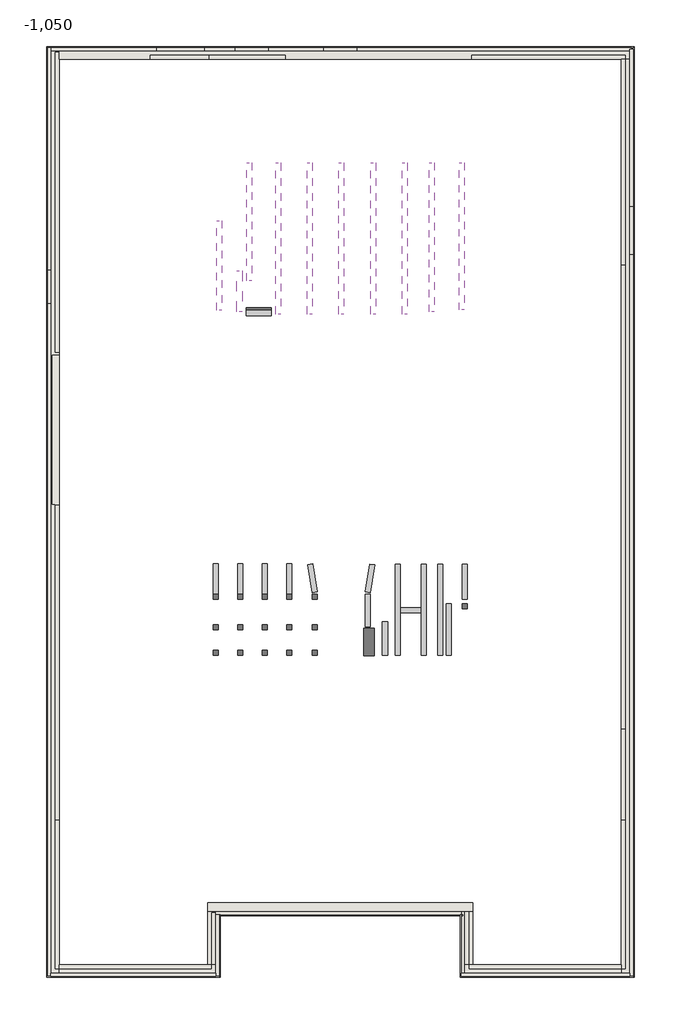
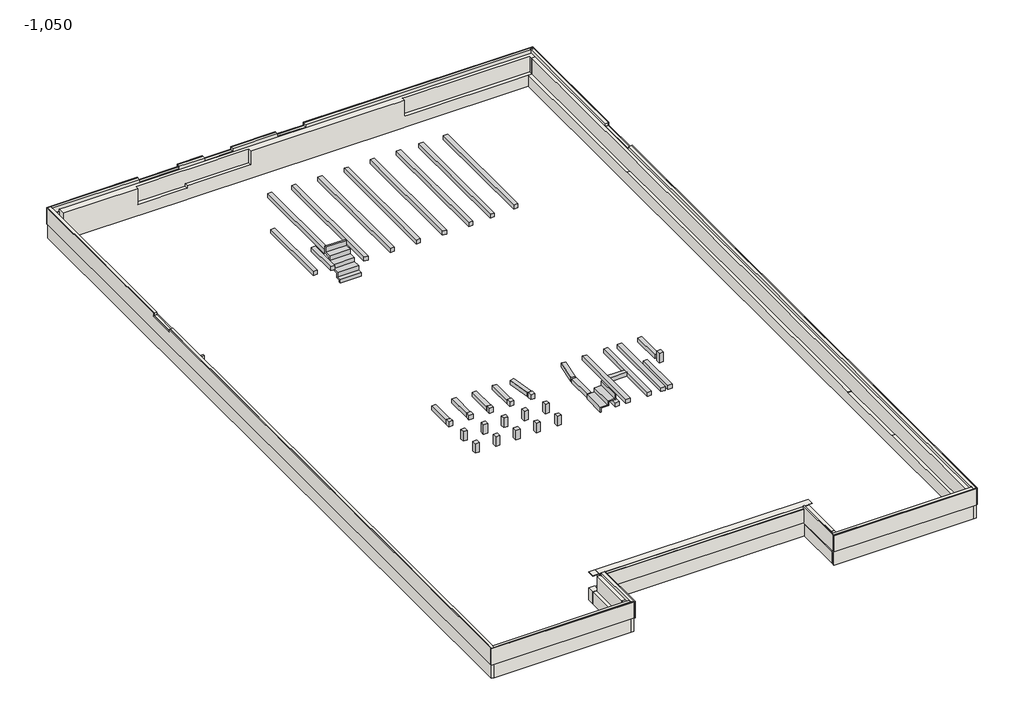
# One storey: 42 proxies, 24 walls.
"""IFC4 building model written with IfcOpenShell, lengths in millimetres."""

from ifc_helpers import new_model, si_unit, origin, place, context, project, spatial, faceted_brep, transform, mapped, element, save
from components import generic_models_91f2eda5, generic_models_311d7380, generic_models_d7380c55, generic_models_fb02990d, generic_models_5c8551f2, generic_models_0a0f0701, generic_models_8112f402, generic_models_638b450d, generic_models_1dc8325f, generic_models_6abca7a8, generic_models_34106eca, generic_models_d80d0d0e, generic_models_195040dd, generic_models_a04b8802, generic_models_7fd432a6, generic_models_03230570, generic_models_1b29908c, generic_models_3de3591b, generic_models_bb56d079

model = new_model("IFC4")

# Units and contexts
model_context = context("Model", 3, world=origin())
ifc_project = project(units=[si_unit("LENGTHUNIT", "METRE", prefix="MILLI")], contexts=[model_context])

# Site, building, storey
site = spatial("IfcSite", under=ifc_project)
building = spatial("IfcBuilding", under=site)
storey = spatial("IfcBuildingStorey", under=building, Name="-1,050", Elevation=-1050.0)

# Proxies
placement = place(None, origin())
generic_models_shape = generic_models_91f2eda5(model_context)
element("IfcBuildingElementProxy", 1, Name="Брус : 150х150", ObjectType="Брус : 150х150", at=placement, inside=storey, context=model_context, shape_type="MappedRepresentation", body=[
    mapped(generic_models_shape, transform((5619.9987483, 23875.0, 490.0), x_axis=(1.0, 0.0, 0.0), y_axis=(0.0, 0.0, 1.0), z_axis=(0.0, -1.0, 0.0))),
])
generic_models_2_shape = generic_models_311d7380(model_context)
element("IfcBuildingElementProxy", 2, Name="Брус : 150х150", ObjectType="Брус : 150х150", at=placement, inside=storey, context=model_context, shape_type="MappedRepresentation", body=[
    mapped(generic_models_2_shape, transform((5330.0, 20665.47696, 490.0), x_axis=(1.0, 0.0, 0.0), y_axis=(0.0, 0.0, 1.0), z_axis=(0.0, -1.0, 0.0))),
])
generic_models_3_shape = generic_models_d7380c55(model_context)
element("IfcBuildingElementProxy", 3, Name="Брус : 150х150", ObjectType="Брус : 150х150", at=placement, inside=storey, context=model_context, shape_type="MappedRepresentation", body=[
    mapped(generic_models_3_shape, transform((4725.0, 22150.0, 490.0), x_axis=(1.0, 0.0, 0.0), y_axis=(0.0, 0.0, 1.0), z_axis=(0.0, -1.0, 0.0))),
])
generic_models_4_shape = generic_models_fb02990d(model_context)
element("IfcBuildingElementProxy", 4, Name="Брус : 150х150", ObjectType="Брус : 150х150", at=placement, inside=storey, context=model_context, shape_type="MappedRepresentation", body=[
    mapped(generic_models_4_shape, transform((6480.0, 19385.0, 490.0), x_axis=(1.0, 0.0, 0.0), y_axis=(0.0, 0.0, -1.0), z_axis=(0.0, 1.0, 0.0))),
])
element("IfcBuildingElementProxy", 5, Name="Брус : 150х150", ObjectType="Брус : 150х150", at=placement, inside=storey, context=model_context, shape_type="MappedRepresentation", body=[
    mapped(generic_models_4_shape, transform((7420.0, 19385.0, 490.0), x_axis=(1.0, 0.0, 0.0), y_axis=(0.0, 0.0, -1.0), z_axis=(0.0, 1.0, 0.0))),
])
element("IfcBuildingElementProxy", 6, Name="Брус : 150х150", ObjectType="Брус : 150х150", at=placement, inside=storey, context=model_context, shape_type="MappedRepresentation", body=[
    mapped(generic_models_4_shape, transform((8360.0, 19385.0, 490.0), x_axis=(1.0, 0.0, 0.0), y_axis=(0.0, 0.0, -1.0), z_axis=(0.0, 1.0, 0.0))),
])
element("IfcBuildingElementProxy", 7, Name="Брус : 150х150", ObjectType="Брус : 150х150", at=placement, inside=storey, context=model_context, shape_type="MappedRepresentation", body=[
    mapped(generic_models_4_shape, transform((9300.0, 19385.0, 490.0), x_axis=(1.0, 0.0, 0.0), y_axis=(0.0, 0.0, -1.0), z_axis=(0.0, 1.0, 0.0))),
])
element("IfcBuildingElementProxy", 8, Name="Брус : 150х150", ObjectType="Брус : 150х150", at=placement, inside=storey, context=model_context, shape_type="MappedRepresentation", body=[
    mapped(generic_models_4_shape, transform((10240.0, 19385.0, 490.0), x_axis=(1.0, 0.0, 0.0), y_axis=(0.0, 0.0, -1.0), z_axis=(0.0, 1.0, 0.0))),
])
generic_models_5_shape = generic_models_5c8551f2(model_context)
element("IfcBuildingElementProxy", 9, Name="Брус : 150х150", ObjectType="Брус : 150х150", at=placement, inside=storey, context=model_context, shape_type="MappedRepresentation", body=[
    mapped(generic_models_5_shape, transform((11050.0, 23875.0, 490.0), x_axis=(1.0, 0.0, 0.0), y_axis=(0.0, 0.0, 1.0), z_axis=(0.0, -1.0, 0.0))),
])
generic_models_6_shape = generic_models_0a0f0701(model_context)
element("IfcBuildingElementProxy", 10, Name="Брус : 150х150", ObjectType="Брус : 150х150", at=placement, inside=storey, context=model_context, shape_type="MappedRepresentation", body=[
    mapped(generic_models_6_shape, transform((11930.0, 23875.0, 490.0), x_axis=(1.0, 0.0, 0.0), y_axis=(0.0, 0.0, 1.0), z_axis=(0.0, -1.0, 0.0))),
])
generic_models_7_shape = generic_models_8112f402(model_context)
element("IfcBuildingElementProxy", 11, Name="Л1 : Л-2", ObjectType="Л1 : Л-2", at=placement, inside=storey, context=model_context, shape_type="MappedRepresentation", body=[
    mapped(generic_models_7_shape, transform((0.0, 0.0, 0.0), x_axis=(1.0, 0.0, 0.0), y_axis=(0.0, 1.0, 0.0), z_axis=(0.0, 0.0, 1.0))),
])
generic_models_8_shape = generic_models_638b450d(model_context)
element("IfcBuildingElementProxy", 12, Name="Брус : 150х150", ObjectType="Брус : 150х150", at=placement, inside=storey, context=model_context, shape_type="MappedRepresentation", body=[
    mapped(generic_models_8_shape, transform((5505.0, 11049.9999997, -5.0), x_axis=(-1.0, 0.0, 0.0), y_axis=(0.0, 0.0, 1.0), z_axis=(0.0, 1.0, 0.0))),
])
element("IfcBuildingElementProxy", 13, Name="Брус : 150х150", ObjectType="Брус : 150х150", at=placement, inside=storey, context=model_context, shape_type="MappedRepresentation", body=[
    mapped(generic_models_8_shape, transform((4775.0, 11049.9999997, -5.0), x_axis=(-1.0, 0.0, 0.0), y_axis=(0.0, 0.0, 1.0), z_axis=(0.0, 1.0, 0.0))),
])
element("IfcBuildingElementProxy", 14, Name="Брус : 150х150", ObjectType="Брус : 150х150", at=placement, inside=storey, context=model_context, shape_type="MappedRepresentation", body=[
    mapped(generic_models_8_shape, transform((6235.0, 11049.9999997, -5.0), x_axis=(-1.0, 0.0, 0.0), y_axis=(0.0, 0.0, 1.0), z_axis=(0.0, 1.0, 0.0))),
])
element("IfcBuildingElementProxy", 15, Name="Брус : 150х150", ObjectType="Брус : 150х150", at=placement, inside=storey, context=model_context, shape_type="MappedRepresentation", body=[
    mapped(generic_models_8_shape, transform((6965.0, 11049.9999997, -5.0), x_axis=(-1.0, 0.0, 0.0), y_axis=(0.0, 0.0, 1.0), z_axis=(0.0, 1.0, 0.0))),
])
generic_models_9_shape = generic_models_1dc8325f(model_context)
element("IfcBuildingElementProxy", 16, Name="Брус : 150х150", ObjectType="Брус : 150х150", at=placement, inside=storey, context=model_context, shape_type="MappedRepresentation", body=[
    mapped(generic_models_9_shape, transform((9290.0, 10094.9999997, -5.0), x_axis=(-1.0, 0.0, 0.0), y_axis=(0.0, 0.0, 1.0), z_axis=(0.0, 1.0, 0.0))),
])
generic_models_10_shape = generic_models_6abca7a8(model_context)
element("IfcBuildingElementProxy", 17, Name="Брус : 150х150", ObjectType="Брус : 150х150", at=placement, inside=storey, context=model_context, shape_type="MappedRepresentation", body=[
    mapped(generic_models_10_shape, transform((9805.0, 9244.9999997, -5.0), x_axis=(-1.0, 0.0, 0.0), y_axis=(0.0, 0.0, 1.0), z_axis=(0.0, 1.0, 0.0))),
])
generic_models_11_shape = generic_models_34106eca(model_context)
element("IfcBuildingElementProxy", 18, Name="Брус : 150х150", ObjectType="Брус : 150х150", at=placement, inside=storey, context=model_context, shape_type="MappedRepresentation", body=[
    mapped(generic_models_11_shape, transform((11695.0, 9244.9999997, -5.0), x_axis=(-1.0, 0.0, 0.0), y_axis=(0.0, 0.0, 1.0), z_axis=(0.0, 1.0, 0.0))),
])
generic_models_12_shape = generic_models_d80d0d0e(model_context)
element("IfcBuildingElementProxy", 19, Name="Брус : 150х150", ObjectType="Брус : 150х150", at=placement, inside=storey, context=model_context, shape_type="MappedRepresentation", body=[
    mapped(generic_models_12_shape, transform((10805.0, 10655.0, -5.0), x_axis=(0.0, -1.0, 0.0), y_axis=(0.0, 0.0, 1.0), z_axis=(-1.0, 0.0, 0.0))),
])
generic_models_13_shape = generic_models_195040dd(model_context)
element("IfcBuildingElementProxy", 20, Name="Брус : 150х150", ObjectType="Брус : 150х150", at=placement, inside=storey, context=model_context, shape_type="MappedRepresentation", body=[
    mapped(generic_models_13_shape, transform((10185.0, 9244.9999997, -5.0), x_axis=(-1.0, 0.0, 0.0), y_axis=(0.0, 0.0, 1.0), z_axis=(0.0, 1.0, 0.0))),
])
element("IfcBuildingElementProxy", 21, Name="Брус : 150х150", ObjectType="Брус : 150х150", at=placement, inside=storey, context=model_context, shape_type="MappedRepresentation", body=[
    mapped(generic_models_13_shape, transform((10955.0, 9244.9999997, -5.0), x_axis=(-1.0, 0.0, 0.0), y_axis=(0.0, 0.0, 1.0), z_axis=(0.0, 1.0, 0.0))),
])
element("IfcBuildingElementProxy", 22, Name="Брус : 150х150", ObjectType="Брус : 150х150", at=placement, inside=storey, context=model_context, shape_type="MappedRepresentation", body=[
    mapped(generic_models_13_shape, transform((11445.0, 9244.9999997, -5.0), x_axis=(-1.0, 0.0, 0.0), y_axis=(0.0, 0.0, 1.0), z_axis=(0.0, 1.0, 0.0))),
])
generic_models_14_shape = generic_models_a04b8802(model_context)
element("IfcBuildingElementProxy", 23, Name="Брус : 150х150", ObjectType="Брус : 150х150", at=placement, inside=storey, context=model_context, shape_type="MappedRepresentation", body=[
    mapped(generic_models_14_shape, transform((12175.0, 10899.9999997, -5.0), x_axis=(-1.0, 0.0, 0.0), y_axis=(0.0, 0.0, 1.0), z_axis=(0.0, 1.0, 0.0))),
])
generic_models_15_shape = generic_models_7fd432a6(model_context)
element("IfcBuildingElementProxy", 24, Name="Брус 9 : Брус 2", ObjectType="Брус 9 : Брус 2", at=placement, inside=storey, context=model_context, shape_type="MappedRepresentation", body=[
    mapped(generic_models_15_shape, transform((0.0, 0.0, 0.0), x_axis=(1.0, 0.0, 0.0), y_axis=(0.0, 1.0, 0.0), z_axis=(0.0, 0.0, 1.0))),
])
generic_models_16_shape = generic_models_03230570(model_context)
element("IfcBuildingElementProxy", 25, Name="Л-3 : Л-3", ObjectType="Л-3 : Л-3", at=placement, inside=storey, context=model_context, shape_type="MappedRepresentation", body=[
    mapped(generic_models_16_shape, transform((0.0, 0.0, 0.0), x_axis=(1.0, 0.0, 0.0), y_axis=(0.0, 1.0, 0.0), z_axis=(0.0, 0.0, 1.0))),
])
generic_models_17_shape = generic_models_1b29908c(model_context)
element("IfcBuildingElementProxy", 26, Name="Брус : 150х150", ObjectType="Брус : 150х150", at=placement, inside=storey, context=model_context, shape_type="MappedRepresentation", body=[
    mapped(generic_models_17_shape, transform((12025.0, 10624.7875056, -5.0), x_axis=(1.0, 0.0, 0.0), y_axis=(0.0, 1.0, 0.0), z_axis=(0.0, 0.0, 1.0))),
])
element("IfcBuildingElementProxy", 27, Name="Брус : 150х150", ObjectType="Брус : 150х150", at=placement, inside=storey, context=model_context, shape_type="MappedRepresentation", body=[
    mapped(generic_models_17_shape, transform((5355.0, 9999.9999997, -5.0), x_axis=(1.0, 0.0, 0.0), y_axis=(0.0, 1.0, 0.0), z_axis=(0.0, 0.0, 1.0))),
])
element("IfcBuildingElementProxy", 28, Name="Брус : 150х150", ObjectType="Брус : 150х150", at=placement, inside=storey, context=model_context, shape_type="MappedRepresentation", body=[
    mapped(generic_models_17_shape, transform((4625.0, 9999.9999997, -5.0), x_axis=(1.0, 0.0, 0.0), y_axis=(0.0, 1.0, 0.0), z_axis=(0.0, 0.0, 1.0))),
])
element("IfcBuildingElementProxy", 29, Name="Брус : 150х150", ObjectType="Брус : 150х150", at=placement, inside=storey, context=model_context, shape_type="MappedRepresentation", body=[
    mapped(generic_models_17_shape, transform((4625.0, 9244.9999997, -5.0), x_axis=(1.0, 0.0, 0.0), y_axis=(0.0, 1.0, 0.0), z_axis=(0.0, 0.0, 1.0))),
])
element("IfcBuildingElementProxy", 30, Name="Брус : 150х150", ObjectType="Брус : 150х150", at=placement, inside=storey, context=model_context, shape_type="MappedRepresentation", body=[
    mapped(generic_models_17_shape, transform((5355.0, 9244.9999997, -5.0), x_axis=(1.0, 0.0, 0.0), y_axis=(0.0, 1.0, 0.0), z_axis=(0.0, 0.0, 1.0))),
])
element("IfcBuildingElementProxy", 31, Name="Брус : 150х150", ObjectType="Брус : 150х150", at=placement, inside=storey, context=model_context, shape_type="MappedRepresentation", body=[
    mapped(generic_models_17_shape, transform((6085.0, 9244.9999997, -5.0), x_axis=(1.0, 0.0, 0.0), y_axis=(0.0, 1.0, 0.0), z_axis=(0.0, 0.0, 1.0))),
])
element("IfcBuildingElementProxy", 32, Name="Брус : 150х150", ObjectType="Брус : 150х150", at=placement, inside=storey, context=model_context, shape_type="MappedRepresentation", body=[
    mapped(generic_models_17_shape, transform((6815.0, 9244.9999997, -5.0), x_axis=(1.0, 0.0, 0.0), y_axis=(0.0, 1.0, 0.0), z_axis=(0.0, 0.0, 1.0))),
])
element("IfcBuildingElementProxy", 33, Name="Брус : 150х150", ObjectType="Брус : 150х150", at=placement, inside=storey, context=model_context, shape_type="MappedRepresentation", body=[
    mapped(generic_models_17_shape, transform((7570.0, 9244.9999997, -5.0), x_axis=(1.0, 0.0, 0.0), y_axis=(0.0, 1.0, 0.0), z_axis=(0.0, 0.0, 1.0))),
])
element("IfcBuildingElementProxy", 34, Name="Брус : 150х150", ObjectType="Брус : 150х150", at=placement, inside=storey, context=model_context, shape_type="MappedRepresentation", body=[
    mapped(generic_models_17_shape, transform((7570.0, 9999.9999997, -5.0), x_axis=(1.0, 0.0, 0.0), y_axis=(0.0, 1.0, 0.0), z_axis=(0.0, 0.0, 1.0))),
])
element("IfcBuildingElementProxy", 35, Name="Брус : 150х150", ObjectType="Брус : 150х150", at=placement, inside=storey, context=model_context, shape_type="MappedRepresentation", body=[
    mapped(generic_models_17_shape, transform((6815.0, 9999.9999997, -5.0), x_axis=(1.0, 0.0, 0.0), y_axis=(0.0, 1.0, 0.0), z_axis=(0.0, 0.0, 1.0))),
])
element("IfcBuildingElementProxy", 36, Name="Брус : 150х150", ObjectType="Брус : 150х150", at=placement, inside=storey, context=model_context, shape_type="MappedRepresentation", body=[
    mapped(generic_models_17_shape, transform((6085.0, 9999.9999997, -5.0), x_axis=(1.0, 0.0, 0.0), y_axis=(0.0, 1.0, 0.0), z_axis=(0.0, 0.0, 1.0))),
])
generic_models_18_shape = generic_models_3de3591b(model_context)
element("IfcBuildingElementProxy", 37, Name="Брус 10 : Брус 2", ObjectType="Брус 10 : Брус 2", at=placement, inside=storey, context=model_context, shape_type="MappedRepresentation", body=[
    mapped(generic_models_18_shape, transform((0.0, 0.0, 0.0), x_axis=(1.0, 0.0, 0.0), y_axis=(0.0, 1.0, 0.0), z_axis=(0.0, 0.0, 1.0))),
])
generic_models_19_shape = generic_models_bb56d079(model_context)
element("IfcBuildingElementProxy", 38, Name="Брус : 150х150", ObjectType="Брус : 150х150", at=placement, inside=storey, context=model_context, shape_type="MappedRepresentation", body=[
    mapped(generic_models_19_shape, transform((4625.0, 10899.9999997, -5.0), x_axis=(1.0, 0.0, 0.0), y_axis=(0.0, 1.0, 0.0), z_axis=(0.0, 0.0, 1.0))),
])
element("IfcBuildingElementProxy", 39, Name="Брус : 150х150", ObjectType="Брус : 150х150", at=placement, inside=storey, context=model_context, shape_type="MappedRepresentation", body=[
    mapped(generic_models_19_shape, transform((5355.0, 10899.9999997, -5.0), x_axis=(1.0, 0.0, 0.0), y_axis=(0.0, 1.0, 0.0), z_axis=(0.0, 0.0, 1.0))),
])
element("IfcBuildingElementProxy", 40, Name="Брус : 150х150", ObjectType="Брус : 150х150", at=placement, inside=storey, context=model_context, shape_type="MappedRepresentation", body=[
    mapped(generic_models_19_shape, transform((6085.0, 10899.9999997, -5.0), x_axis=(1.0, 0.0, 0.0), y_axis=(0.0, 1.0, 0.0), z_axis=(0.0, 0.0, 1.0))),
])
element("IfcBuildingElementProxy", 41, Name="Брус : 150х150", ObjectType="Брус : 150х150", at=placement, inside=storey, context=model_context, shape_type="MappedRepresentation", body=[
    mapped(generic_models_19_shape, transform((6815.0, 10899.9999997, -5.0), x_axis=(1.0, 0.0, 0.0), y_axis=(0.0, 1.0, 0.0), z_axis=(0.0, 0.0, 1.0))),
])
element("IfcBuildingElementProxy", 42, Name="Брус : 150х150", ObjectType="Брус : 150х150", at=placement, inside=storey, context=model_context, shape_type="MappedRepresentation", body=[
    mapped(generic_models_19_shape, transform((7570.0, 10899.9999997, -5.0), x_axis=(1.0, 0.0, 0.0), y_axis=(0.0, 1.0, 0.0), z_axis=(0.0, 0.0, 1.0))),
])

# Walls
element("IfcWall", 43, ObjectType="ADSK_Внутренняя_Кирпич_250", at=placement, inside=storey, context=model_context, shape_type="Brep", body=[
    faceted_brep([(4455.0, 1635.3517467, -1050.0), (4705.0, 1635.3517467, -1050.0), (11995.0, 1635.3517467, -1050.0), (12095.0, 1635.3517467, -1050.0), (12345.0, 1635.3517467, -1050.0), (12345.0, 1635.3517467, -610.0), (12215.0, 1635.3517467, -610.0), (12215.0, 1635.3517467, -20.0), (12215.0, 1635.3517467, -3.0), (12345.0, 1635.3517467, -3.0), (12345.0, 1635.3517467, 0.0), (4455.0, 1635.3517467, 0.0), (4455.0, 1635.3517467, -3.0), (4687.5, 1635.3517467, -3.0), (4687.5, 1635.3517467, -20.0), (4687.5, 1635.3517467, -610.0), (4455.0, 1635.3517467, -610.0), (12345.0, 1885.3517467, -1050.0), (4455.0, 1885.3517467, -1050.0), (4455.0, 1885.3517467, -610.0), (4675.0, 1885.3517467, -610.0), (4675.0, 1885.3517467, -627.0), (12112.5, 1885.3517467, -627.0), (12112.5, 1885.3517467, -610.0), (12345.0, 1885.3517467, -610.0), (4455.0, 1885.3517467, 0.0), (12345.0, 1885.3517467, 0.0), (12345.0, 1885.3517467, -3.0), (12112.5, 1885.3517467, -3.0), (12112.5, 1885.3517467, -20.0), (4687.5, 1885.3517467, -20.0), (4687.5, 1885.3517467, -3.0), (4455.0, 1885.3517467, -3.0), (4675.0, 1755.3517467, -627.0), (12112.5, 1755.3517467, -627.0), (12112.5, 1755.3517467, -20.0), (4687.5, 1755.3517467, -20.0), (4675.0, 1755.3517467, -610.0), (4687.5, 1755.3517467, -610.0), (12112.5, 1755.3517467, -3.0), (12215.0, 1755.3517467, -3.0), (12215.0, 1755.3517467, -610.0), (12112.5, 1755.3517467, -610.0)], [[[0, 1, 2, 3, 4, 5, 6, 7, 8, 9, 10, 11, 12, 13, 14, 15, 16]], [[17, 18, 19, 20, 21, 22, 23, 24]], [[25, 26, 27, 28, 29, 30, 31, 32]], [[4, 3, 2, 1, 0, 18, 17]], [[11, 10, 26, 25]], [[33, 34, 22, 21]], [[30, 29, 35, 36]], [[34, 33, 37, 38, 36, 35, 39, 40, 41, 42]], [[22, 34, 42, 23]], [[33, 21, 20, 37]], [[11, 25, 32, 12]], [[18, 0, 16, 19]], [[15, 38, 37, 20, 19, 16]], [[42, 41, 6, 5, 24, 23]], [[39, 35, 29, 28]], [[38, 15, 14, 13, 31, 30, 36]], [[40, 39, 28, 27, 9, 8]], [[31, 13, 12, 32]], [[4, 17, 24, 5]], [[26, 10, 9, 27]], [[41, 40, 8, 7, 6]]]),
])
element("IfcWall", 44, ObjectType="Утеплитель цоколя", at=placement, inside=storey, context=model_context, shape_type="Brep", body=[
    faceted_brep([(-205.0, -305.0, -1050.0), (-205.0, -205.0, -1050.0), (-205.0, 27205.0, -1050.0), (-205.0, 27305.0, -1050.0), (-205.0, 27305.0, 100.0), (-205.0, 27205.0, 100.0), (-205.0, 27085.0, 100.0), (-205.0, 20699.9974866, 100.0), (-205.0, 20699.9974866, 0.0), (-205.0, 19689.9974866, 0.0), (-205.0, 19689.9974866, 100.0), (-205.0, -205.0, 100.0), (-205.0, -305.0, 100.0), (-305.0, 27305.0, -1050.0), (-305.0, -305.0, -1050.0), (-305.0, -305.0, -525.0), (-305.0, 27305.0, -525.0), (-300.0, 19689.9974866, 100.0), (-300.0, -305.0, 100.0), (-300.0, 27305.0, 100.0), (-300.0, 20699.9974866, 100.0), (-300.0, 27305.0, -525.0), (-300.0, -305.0, -525.0), (-300.0, 19689.9974866, 0.0), (-300.0, 20699.9974866, 0.0)], [[[0, 1, 2, 3, 4, 5, 6, 7, 8, 9, 10, 11, 12]], [[13, 14, 15, 16]], [[3, 2, 1, 0, 14, 13]], [[12, 11, 10, 17, 18]], [[7, 6, 5, 4, 19, 20]], [[4, 3, 13, 16, 21, 19]], [[0, 12, 18, 22, 15, 14]], [[21, 22, 18, 17, 23, 24, 20, 19]], [[22, 21, 16, 15]], [[9, 8, 24, 23]], [[10, 9, 23, 17]], [[8, 7, 20, 24]]]),
])
element("IfcWall", 45, ObjectType="Утеплитель цоколя", at=placement, inside=storey, context=model_context, shape_type="Brep", body=[
    faceted_brep([(-205.0, 27205.0, -1050.0), (17055.0, 27205.0, -1050.0), (17055.0, 27205.0, 100.0), (17005.0, 27205.0, 100.0), (16885.0, 27205.0, 100.0), (8899.9997514, 27205.0, 100.0), (8899.9997514, 27205.0, 0.0), (7889.9997514, 27205.0, 0.0), (7889.9997514, 27205.0, 100.0), (6279.9972865, 27205.0, 100.0), (6279.9972865, 27205.0, 0.0), (5269.9972865, 27205.0, 0.0), (5269.9972865, 27205.0, 100.0), (4369.9972865, 27205.0, 100.0), (4369.9972865, 27205.0, 0.0), (2929.9972865, 27205.0, 0.0), (2929.9972865, 27205.0, 100.0), (-85.0, 27205.0, 100.0), (-205.0, 27205.0, 100.0), (-205.0, 27205.0, -25.0), (17055.0, 27305.0, -1050.0), (-205.0, 27305.0, -1050.0), (-205.0, 27305.0, 100.0), (2929.9972865, 27305.0, 100.0), (2929.9972865, 27305.0, 0.0), (4369.9972865, 27305.0, 0.0), (4369.9972865, 27305.0, 100.0), (5269.9972865, 27305.0, 100.0), (5269.9972865, 27305.0, 0.0), (6279.9972865, 27305.0, 0.0), (6279.9972865, 27305.0, 100.0), (7889.9997514, 27305.0, 100.0), (7889.9997514, 27305.0, 0.0), (8899.9997514, 27305.0, 0.0), (8899.9997514, 27305.0, 100.0), (17055.0, 27305.0, 100.0)], [[[0, 1, 2, 3, 4, 5, 6, 7, 8, 9, 10, 11, 12, 13, 14, 15, 16, 17, 18, 19]], [[20, 21, 22, 23, 24, 25, 26, 27, 28, 29, 30, 31, 32, 33, 34, 35]], [[1, 0, 21, 20]], [[2, 1, 20, 35]], [[2, 35, 34, 5, 4, 3]], [[22, 18, 17, 16, 23]], [[26, 13, 12, 27]], [[30, 9, 8, 31]], [[0, 19, 18, 22, 21]], [[14, 25, 24, 15]], [[15, 24, 23, 16]], [[25, 14, 13, 26]], [[28, 11, 10, 29]], [[11, 28, 27, 12]], [[29, 10, 9, 30]], [[32, 7, 6, 33]], [[7, 32, 31, 8]], [[33, 6, 5, 34]]]),
])
element("IfcWall", 46, ObjectType="Утеплитель цоколя", at=placement, inside=storey, context=model_context, shape_type="Brep", body=[
    faceted_brep([(17005.0, 27255.0, -1050.0), (17005.0, -205.0, -1050.0), (17005.0, -305.0, -1050.0), (17005.0, -305.0, 100.0), (17005.0, -205.0, 100.0), (17005.0, -85.0, 100.0), (17005.0, 21150.0, 100.0), (17005.0, 21150.0, -12.5), (17005.0, 22590.0, -12.5), (17005.0, 22590.0, 100.0), (17005.0, 27085.0, 100.0), (17005.0, 27205.0, 100.0), (17005.0, 27255.0, 100.0), (17105.0, -305.0, -1050.0), (17105.0, 27255.0, -1050.0), (17105.0, 27255.0, 100.0), (17105.0, 22590.0, 100.0), (17105.0, 22590.0, -12.5), (17105.0, 21150.0, -12.5), (17105.0, 21150.0, 100.0), (17105.0, -305.0, 100.0)], [[[0, 1, 2, 3, 4, 5, 6, 7, 8, 9, 10, 11, 12]], [[13, 14, 15, 16, 17, 18, 19, 20]], [[2, 1, 0, 14, 13]], [[15, 12, 11, 10, 9, 16]], [[3, 20, 19, 6, 5, 4]], [[0, 12, 15, 14]], [[3, 2, 13, 20]], [[7, 18, 17, 8]], [[8, 17, 16, 9]], [[18, 7, 6, 19]]]),
])
element("IfcWall", 47, ObjectType="Утеплитель цоколя", at=placement, inside=storey, context=model_context, shape_type="Brep", body=[
    faceted_brep([(17005.0, -205.0, -1050.0), (12095.0, -205.0, -1050.0), (11995.0, -205.0, -1050.0), (11995.0, -205.0, -627.0), (11995.0, -205.0, 100.0), (17005.0, -205.0, 100.0), (17005.0, -305.0, -1050.0), (17005.0, -305.0, 100.0), (11995.0, -305.0, 100.0), (11995.0, -305.0, -1050.0)], [[[0, 1, 2, 3, 4, 5]], [[6, 7, 8, 9]], [[2, 1, 0, 6, 9]], [[5, 4, 8, 7]], [[0, 5, 7, 6]], [[4, 3, 2, 9, 8]]]),
])
element("IfcWall", 48, ObjectType="Утеплитель цоколя", at=placement, inside=storey, context=model_context, shape_type="Brep", body=[
    faceted_brep([(12095.0, -205.0, -1050.0), (12095.0, 1635.3517467, -1050.0), (12095.0, 1635.3517467, -627.0), (12095.0, -205.0, -627.0), (11995.0, -205.0, -1050.0), (11995.0, -205.0, -627.0), (11995.0, 1635.3517467, -627.0), (11995.0, 1635.3517467, -1050.0), (11995.0, 1535.3517467, -1050.0)], [[[0, 1, 2, 3]], [[4, 5, 6, 7, 8]], [[1, 0, 4, 8, 7]], [[3, 2, 6, 5]], [[0, 3, 5, 4]], [[2, 1, 7, 6]]]),
])
element("IfcWall", 49, ObjectType="Утеплитель цоколя", at=placement, inside=storey, context=model_context, shape_type="Brep", body=[
    faceted_brep([(11995.0, 1635.3517467, -1050.0), (4705.0, 1635.3517467, -1050.0), (4705.0, 1635.3517467, -20.0), (4705.0, 1635.3517467, 0.0), (11995.0, 1635.3517467, 0.0), (11995.0, 1635.3517467, -627.0), (11995.0, 1535.3517467, -1050.0), (11995.0, 1535.3517467, -525.0), (11995.0, 1535.3517467, 0.0), (4705.0, 1535.3517467, 0.0), (4705.0, 1535.3517467, -1050.0), (4805.0, 1535.3517467, -1050.0)], [[[0, 1, 2, 3, 4, 5]], [[6, 7, 8, 9, 10, 11]], [[1, 0, 6, 11, 10]], [[4, 3, 9, 8]], [[0, 5, 4, 8, 7, 6]], [[3, 2, 1, 10, 9]]]),
])
element("IfcWall", 50, ObjectType="Утеплитель цоколя", at=placement, inside=storey, context=model_context, shape_type="Brep", body=[
    faceted_brep([(4705.0, 1535.3517467, -1050.0), (4705.0, -205.0, -1050.0), (4705.0, -305.0, -1050.0), (4705.0, -305.0, 100.0), (4705.0, -205.0, 100.0), (4705.0, 1535.3517467, 100.0), (4705.0, 1535.3517467, 0.0), (4805.0, 1535.3517467, -1050.0), (4805.0, 1535.3517467, -525.0), (4805.0, 1535.3517467, 0.0), (4805.0, 1535.3517467, 100.0), (4805.0, -305.0, 100.0), (4805.0, -305.0, -1050.0)], [[[0, 1, 2, 3, 4, 5, 6]], [[7, 8, 9, 10, 11, 12]], [[2, 1, 0, 7, 12]], [[0, 6, 5, 10, 9, 8, 7]], [[3, 2, 12, 11]], [[5, 4, 3, 11, 10]]]),
])
element("IfcWall", 51, ObjectType="Утеплитель цоколя", at=placement, inside=storey, context=model_context, shape_type="Brep", body=[
    faceted_brep([(4705.0, -205.0, -1050.0), (-205.0, -205.0, -1050.0), (-205.0, -205.0, -25.0), (-205.0, -205.0, 100.0), (-85.0, -205.0, 100.0), (4585.0, -205.0, 100.0), (4705.0, -205.0, 100.0), (4705.0, -205.0, -25.0), (4705.0, -305.0, -1050.0), (4705.0, -305.0, 100.0), (-205.0, -305.0, 100.0), (-205.0, -305.0, -1050.0)], [[[0, 1, 2, 3, 4, 5, 6, 7]], [[8, 9, 10, 11]], [[1, 0, 8, 11]], [[6, 5, 4, 3, 10, 9]], [[0, 7, 6, 9, 8]], [[3, 2, 1, 11, 10]]]),
])
element("IfcWall", 52, ObjectType="Отделка цоколя", at=placement, inside=storey, context=model_context, shape_type="Brep", body=[
    faceted_brep([(-330.0, 27305.0, -525.0), (-300.0, 27305.0, -525.0), (17105.0, 27305.0, -525.0), (17135.0, 27305.0, -525.0), (17135.0, 27305.0, 100.0), (17105.0, 27305.0, 100.0), (17055.0, 27305.0, 100.0), (8899.9997514, 27305.0, 100.0), (8899.9997514, 27305.0, 0.0), (7889.9997514, 27305.0, 0.0), (7889.9997514, 27305.0, 100.0), (6279.9972865, 27305.0, 100.0), (6279.9972865, 27305.0, 0.0), (5269.9972865, 27305.0, 0.0), (5269.9972865, 27305.0, 100.0), (4369.9972865, 27305.0, 100.0), (4369.9972865, 27305.0, 0.0), (2929.9972865, 27305.0, 0.0), (2929.9972865, 27305.0, 100.0), (-205.0, 27305.0, 100.0), (-300.0, 27305.0, 100.0), (-330.0, 27305.0, 100.0), (17135.0, 27335.0, -525.0), (-330.0, 27335.0, -525.0), (-330.0, 27335.0, 100.0), (2929.9972865, 27335.0, 100.0), (2929.9972865, 27335.0, 0.0), (4369.9972865, 27335.0, 0.0), (4369.9972865, 27335.0, 100.0), (5269.9972865, 27335.0, 100.0), (5269.9972865, 27335.0, 0.0), (6279.9972865, 27335.0, 0.0), (6279.9972865, 27335.0, 100.0), (7889.9997514, 27335.0, 100.0), (7889.9997514, 27335.0, 0.0), (8899.9997514, 27335.0, 0.0), (8899.9997514, 27335.0, 100.0), (17135.0, 27335.0, 100.0)], [[[0, 1, 2, 3, 4, 5, 6, 7, 8, 9, 10, 11, 12, 13, 14, 15, 16, 17, 18, 19, 20, 21]], [[22, 23, 24, 25, 26, 27, 28, 29, 30, 31, 32, 33, 34, 35, 36, 37]], [[3, 2, 1, 0, 23, 22]], [[4, 37, 36, 7, 6, 5]], [[24, 21, 20, 19, 18, 25]], [[28, 15, 14, 29]], [[32, 11, 10, 33]], [[4, 3, 22, 37]], [[0, 21, 24, 23]], [[16, 27, 26, 17]], [[17, 26, 25, 18]], [[27, 16, 15, 28]], [[30, 13, 12, 31]], [[13, 30, 29, 14]], [[31, 12, 11, 32]], [[34, 9, 8, 35]], [[9, 34, 33, 10]], [[35, 8, 7, 36]]]),
])
element("IfcWall", 53, ObjectType="Отделка цоколя", at=placement, inside=storey, context=model_context, shape_type="Brep", body=[
    faceted_brep([(17105.0, 27305.0, -525.0), (17105.0, -305.0, -525.0), (17105.0, -335.0, -525.0), (17105.0, -335.0, 100.0), (17105.0, -305.0, 100.0), (17105.0, 21150.0, 100.0), (17105.0, 21150.0, -12.5), (17105.0, 22590.0, -12.5), (17105.0, 22590.0, 100.0), (17105.0, 27255.0, 100.0), (17105.0, 27305.0, 100.0), (17135.0, -335.0, -525.0), (17135.0, 27305.0, -525.0), (17135.0, 27305.0, 100.0), (17135.0, 22590.0, 100.0), (17135.0, 22590.0, -12.5), (17135.0, 21150.0, -12.5), (17135.0, 21150.0, 100.0), (17135.0, -335.0, 100.0)], [[[0, 1, 2, 3, 4, 5, 6, 7, 8, 9, 10]], [[11, 12, 13, 14, 15, 16, 17, 18]], [[2, 1, 0, 12, 11]], [[13, 10, 9, 8, 14]], [[3, 18, 17, 5, 4]], [[0, 10, 13, 12]], [[3, 2, 11, 18]], [[6, 16, 15, 7]], [[7, 15, 14, 8]], [[16, 6, 5, 17]]]),
])
element("IfcWall", 54, ObjectType="Отделка цоколя", at=placement, inside=storey, context=model_context, shape_type="Brep", body=[
    faceted_brep([(17105.0, -305.0, -525.0), (11995.0, -305.0, -525.0), (11965.0, -305.0, -525.0), (11965.0, -305.0, 100.0), (11995.0, -305.0, 100.0), (17105.0, -305.0, 100.0), (17105.0, -335.0, -525.0), (17105.0, -335.0, 100.0), (11965.0, -335.0, 100.0), (11965.0, -335.0, -525.0)], [[[0, 1, 2, 3, 4, 5]], [[6, 7, 8, 9]], [[2, 1, 0, 6, 9]], [[5, 4, 3, 8, 7]], [[0, 5, 7, 6]], [[3, 2, 9, 8]]]),
])
element("IfcWall", 55, ObjectType="Отделка цоколя", at=placement, inside=storey, context=model_context, shape_type="Brep", body=[
    faceted_brep([(11995.0, -305.0, -525.0), (11995.0, 1535.3517467, -525.0), (11995.0, 1535.3517467, 0.0), (11995.0, 1535.3517467, 100.0), (11995.0, -305.0, 100.0), (11965.0, -305.0, -525.0), (11965.0, -305.0, 100.0), (11965.0, 1535.3517467, 100.0), (11965.0, 1535.3517467, -525.0)], [[[0, 1, 2, 3, 4]], [[5, 6, 7, 8]], [[1, 0, 5, 8]], [[4, 3, 7, 6]], [[0, 4, 6, 5]], [[3, 2, 1, 8, 7]]]),
])
element("IfcWall", 56, ObjectType="Отделка цоколя", at=placement, inside=storey, context=model_context, shape_type="Brep", body=[
    faceted_brep([(4805.0, -335.0, 100.0), (4805.0, -305.0, 100.0), (4805.0, 1535.3517467, 100.0), (4805.0, 1535.3517467, 0.0), (4805.0, 1505.3517467, 0.0), (4805.0, 1505.3517467, -525.0), (4805.0, -305.0, -525.0), (4805.0, -335.0, -525.0), (4835.0, 1535.3517467, 100.0), (4835.0, -335.0, 100.0), (4835.0, -335.0, -525.0), (4835.0, 1505.3517467, -525.0), (4835.0, 1505.3517467, 0.0), (4835.0, 1535.3517467, 0.0)], [[[0, 1, 2, 3, 4, 5, 6, 7]], [[8, 9, 10, 11, 12, 13]], [[10, 7, 6, 5, 11]], [[2, 1, 0, 9, 8]], [[0, 7, 10, 9]], [[2, 8, 13, 3]], [[4, 12, 11, 5]], [[12, 4, 3, 13]]]),
])
element("IfcWall", 57, ObjectType="Отделка цоколя", at=placement, inside=storey, context=model_context, shape_type="Brep", body=[
    faceted_brep([(4805.0, -305.0, -525.0), (-300.0, -305.0, -525.0), (-330.0, -305.0, -525.0), (-330.0, -305.0, 100.0), (-300.0, -305.0, 100.0), (4805.0, -305.0, 100.0), (4805.0, -335.0, -525.0), (4805.0, -335.0, 100.0), (-330.0, -335.0, 100.0), (-330.0, -335.0, -525.0)], [[[0, 1, 2, 3, 4, 5]], [[6, 7, 8, 9]], [[2, 1, 0, 6, 9]], [[5, 4, 3, 8, 7]], [[0, 5, 7, 6]], [[3, 2, 9, 8]]]),
])
element("IfcWall", 58, ObjectType="ADSK_Внутренняя_Кирпич_250", at=placement, inside=storey, context=model_context, shape_type="Brep", body=[
    faceted_brep([(45.0, -205.0, -1050.0), (45.0, 45.0, -1050.0), (45.0, 26955.0, -1050.0), (45.0, 27205.0, -1050.0), (45.0, 27205.0, -100.0), (45.0, 27175.0, -100.0), (45.0, 27175.0, -605.0), (45.0, 26955.0, -605.0), (45.0, 18240.0, -605.0), (45.0, 18240.0, -100.0), (45.0, 18180.0, -100.0), (45.0, 18180.0, -610.0), (45.0, 13710.0024506, -610.0), (45.0, 13710.0024506, -627.0), (45.0, 4337.4957095, -627.0), (45.0, 4337.4957095, -610.0), (45.0, 45.0, -610.0), (45.0, -85.0, -610.0), (45.0, -85.0, -100.0), (45.0, -205.0, -100.0), (-205.0, 27205.0, -1050.0), (-205.0, -205.0, -1050.0), (-205.0, -205.0, -100.0), (-205.0, 27205.0, -100.0), (-85.0, -85.0, -100.0), (-85.0, 13710.0024506, -100.0), (-175.0, 13710.0024506, -100.0), (-175.0, 18180.0, -100.0), (-85.0, 18240.0, -100.0), (-85.0, 27175.0, -100.0), (-175.0, 18180.0, -610.0), (-175.0, 13710.0024506, -610.0), (-85.0, 13710.0024506, -610.0), (-85.0, 4337.4957095, -610.0), (-85.0, -85.0, -610.0), (-85.0, 4337.4957095, -627.0), (-85.0, 13710.0024506, -627.0), (-85.0, 27175.0, -605.0), (-85.0, 18240.0, -605.0)], [[[0, 1, 2, 3, 4, 5, 6, 7, 8, 9, 10, 11, 12, 13, 14, 15, 16, 17, 18, 19]], [[20, 21, 22, 23]], [[3, 2, 1, 0, 21, 20]], [[23, 22, 19, 18, 24, 25, 26, 27, 10, 9, 28, 29, 5, 4]], [[4, 3, 20, 23]], [[0, 19, 22, 21]], [[30, 31, 32, 12, 11]], [[33, 34, 17, 16, 15]], [[31, 26, 25, 32]], [[31, 30, 27, 26]], [[30, 11, 10, 27]], [[17, 34, 24, 18]], [[34, 33, 35, 36, 32, 25, 24]], [[36, 35, 14, 13]], [[36, 13, 12, 32]], [[14, 35, 33, 15]], [[37, 38, 8, 7, 6]], [[8, 38, 28, 9]], [[38, 37, 29, 28]], [[37, 6, 5, 29]]]),
])
element("IfcWall", 59, ObjectType="ADSK_Внутренняя_Кирпич_250", at=placement, inside=storey, context=model_context, shape_type="Brep", body=[
    faceted_brep([(45.0, 26955.0, -25.0), (45.0, 26955.0, -605.0), (45.0, 26955.0, -1050.0), (4375.0, 26955.0, -1050.0), (4625.0, 26955.0, -1050.0), (12175.0, 26955.0, -1050.0), (12425.0, 26955.0, -1050.0), (16755.0, 26955.0, -1050.0), (17005.0, 26955.0, -1050.0), (17005.0, 26955.0, -25.0), (16885.0, 26955.0, -25.0), (16885.0, 26955.0, -627.0), (16755.0, 26955.0, -627.0), (12425.0, 26955.0, -627.0), (12300.0, 26955.0, -627.0), (12300.0, 26955.0, -25.0), (12175.0, 26955.0, -25.0), (11175.0, 26955.0, -25.0), (11115.0, 26955.0, -25.0), (11055.0, 26955.0, -25.0), (6844.9988121, 26955.0, -25.0), (6784.9988121, 26955.0, -25.0), (6784.9988121, 26955.0, -540.0), (4625.0, 26955.0, -540.0), (4500.0, 26955.0, -540.0), (4500.0, 26955.0, -627.0), (4375.0, 26955.0, -627.0), (2735.2572865, 26955.0, -627.0), (2735.2572865, 26955.0, -605.0), (2735.2572865, 26955.0, -25.0), (2675.2572865, 26955.0, -25.0), (17005.0, 27205.0, -1050.0), (45.0, 27205.0, -1050.0), (45.0, 27205.0, -100.0), (45.0, 27205.0, -25.0), (17005.0, 27205.0, -25.0), (45.0, 27175.0, -25.0), (2735.2572865, 27085.0, -25.0), (4375.0, 27085.0, -25.0), (4500.0, 27085.0, -25.0), (4625.0, 27085.0, -25.0), (6724.9988121, 27085.0, -25.0), (6784.9988121, 27085.0, -25.0), (12300.0, 27085.0, -25.0), (12425.0, 27085.0, -25.0), (16885.0, 27085.0, -25.0), (17005.0, 27085.0, -25.0), (16885.0, 27085.0, -627.0), (12300.0, 27085.0, -627.0), (4500.0, 27085.0, -627.0), (2735.2572865, 27085.0, -627.0), (4500.0, 27085.0, -540.0), (6784.9988121, 27085.0, -540.0)], [[[0, 1, 2, 3, 4, 5, 6, 7, 8, 9, 10, 11, 12, 13, 14, 15, 16, 17, 18, 19, 20, 21, 22, 23, 24, 25, 26, 27, 28, 29, 30]], [[31, 32, 33, 34, 35]], [[32, 31, 8, 7, 6, 5, 4, 3, 2]], [[35, 34, 36, 0, 30, 29, 37, 38, 39, 40, 41, 42, 21, 20, 19, 18, 17, 16, 15, 43, 44, 45, 10, 9, 46]], [[2, 1, 0, 36, 34, 33, 32]], [[9, 8, 31, 35, 46]], [[47, 48, 14, 13, 12, 11]], [[49, 50, 27, 26, 25]], [[48, 47, 45, 44, 43]], [[27, 50, 37, 29, 28]], [[47, 11, 10, 45]], [[50, 49, 51, 52, 42, 41, 40, 39, 38, 37]], [[49, 25, 24, 51]], [[14, 48, 43, 15]], [[52, 51, 24, 23, 22]], [[52, 22, 21, 42]]]),
])
element("IfcWall", 60, ObjectType="ADSK_Внутренняя_Кирпич_250", at=placement, inside=storey, context=model_context, shape_type="Brep", body=[
    faceted_brep([(16755.0, 26955.0, -1050.0), (16755.0, 45.0, -1050.0), (16755.0, -205.0, -1050.0), (16755.0, -205.0, -20.0), (16755.0, -85.0, -20.0), (16755.0, -85.0, -610.0), (16755.0, 45.0, -610.0), (16755.0, 4337.4957095, -610.0), (16755.0, 4337.4957095, -627.0), (16755.0, 7062.5, -627.0), (16755.0, 7062.5, -610.0), (16755.0, 20838.0, -610.0), (16755.0, 20838.0, -627.0), (16755.0, 26955.0, -627.0), (17005.0, -205.0, -1050.0), (17005.0, 26955.0, -1050.0), (17005.0, 26955.0, -25.0), (17005.0, 26955.0, -20.0), (17005.0, -85.0, -20.0), (17005.0, -205.0, -20.0), (16885.0, 26955.0, -20.0), (16885.0, 20838.0, -20.0), (16885.0, 7062.5, -20.0), (16885.0, 4337.4957095, -20.0), (16885.0, -85.0, -20.0), (16885.0, 26955.0, -627.0), (16885.0, 26955.0, -25.0), (16885.0, 4337.4957095, -627.0), (16885.0, 7062.5, -627.0), (16885.0, 20838.0, -627.0), (16885.0, 4337.4957095, -610.0), (16885.0, -85.0, -610.0), (16885.0, 20838.0, -610.0), (16885.0, 7062.5, -610.0)], [[[0, 1, 2, 3, 4, 5, 6, 7, 8, 9, 10, 11, 12, 13]], [[14, 15, 16, 17, 18, 19]], [[2, 1, 0, 15, 14]], [[19, 18, 17, 20, 21, 22, 23, 24, 4, 3]], [[17, 16, 15, 0, 13, 25, 26, 20]], [[3, 2, 14, 19]], [[27, 28, 9, 8]], [[12, 29, 25, 13]], [[28, 27, 30, 31, 24, 23, 22, 21, 20, 26, 25, 29, 32, 33]], [[27, 8, 7, 30]], [[29, 12, 11, 32]], [[9, 28, 33, 10]], [[31, 30, 7, 6, 5]], [[33, 32, 11, 10]], [[31, 5, 4, 24]]]),
])
element("IfcWall", 61, ObjectType="ADSK_Внутренняя_Кирпич_250", at=placement, inside=storey, context=model_context, shape_type="Brep", body=[
    faceted_brep([(4705.0, 45.0, -1050.0), (4705.0, 1535.3517467, -1050.0), (4705.0, 1635.3517467, -1050.0), (4705.0, 1635.3517467, -20.0), (4705.0, 1585.3517467, -20.0), (4705.0, 45.0, -20.0), (4705.0, 45.0, -25.0), (4455.0, 1635.3517467, -1050.0), (4455.0, 45.0, -1050.0), (4455.0, 45.0, -610.0), (4455.0, 1635.3517467, -610.0), (4687.5, 1635.3517467, -20.0), (4687.5, 1585.3517467, -20.0), (4585.0, 1585.3517467, -20.0), (4585.0, 45.0, -20.0), (4687.5, 1635.3517467, -610.0), (4585.0, 45.0, -25.0), (4585.0, 45.0, -610.0), (4585.0, 1585.3517467, -610.0), (4687.5, 1585.3517467, -610.0)], [[[0, 1, 2, 3, 4, 5, 6]], [[7, 8, 9, 10]], [[2, 1, 0, 8, 7]], [[5, 4, 3, 11, 12, 13, 14]], [[3, 2, 7, 10, 15, 11]], [[0, 6, 5, 14, 16, 17, 9, 8]], [[18, 19, 15, 10, 9, 17]], [[19, 18, 13, 12]], [[18, 17, 16, 14, 13]], [[15, 19, 12, 11]]]),
])
element("IfcWall", 62, ObjectType="ADSK_Внутренняя_Кирпич_250", at=placement, inside=storey, context=model_context, shape_type="Brep", body=[
    faceted_brep([(16755.0, 45.0, -1050.0), (12345.0, 45.0, -1050.0), (12095.0, 45.0, -1050.0), (12095.0, 45.0, -20.0), (12215.0, 45.0, -20.0), (12215.0, 45.0, -610.0), (12345.0, 45.0, -610.0), (16755.0, 45.0, -610.0), (12095.0, -205.0, -1050.0), (16755.0, -205.0, -1050.0), (16755.0, -205.0, -20.0), (12095.0, -205.0, -20.0), (16755.0, -85.0, -20.0), (12215.0, -85.0, -20.0), (16755.0, -85.0, -610.0), (12215.0, -85.0, -610.0)], [[[0, 1, 2, 3, 4, 5, 6, 7]], [[8, 9, 10, 11]], [[2, 1, 0, 9, 8]], [[11, 10, 12, 13, 4, 3]], [[10, 9, 0, 7, 14, 12]], [[3, 2, 8, 11]], [[5, 15, 14, 7, 6]], [[14, 15, 13, 12]], [[15, 5, 4, 13]]]),
])
element("IfcWall", 63, ObjectType="ADSK_Внутренняя_Кирпич_250", at=placement, inside=storey, context=model_context, shape_type="Brep", body=[
    faceted_brep([(12345.0, 45.0, -1050.0), (12345.0, 1635.3517467, -1050.0), (12345.0, 1635.3517467, -610.0), (12345.0, 45.0, -610.0), (12095.0, 1635.3517467, -1050.0), (12095.0, 45.0, -1050.0), (12095.0, 45.0, -25.0), (12095.0, 45.0, -20.0), (12095.0, 1635.3517467, -20.0), (12215.0, 45.0, -20.0), (12215.0, 1635.3517467, -20.0), (12215.0, 45.0, -610.0), (12215.0, 45.0, -25.0), (12215.0, 1635.3517467, -610.0)], [[[0, 1, 2, 3]], [[4, 5, 6, 7, 8]], [[1, 0, 5, 4]], [[8, 7, 9, 10]], [[7, 6, 5, 0, 3, 11, 12, 9]], [[13, 11, 3, 2]], [[11, 13, 10, 9, 12]], [[1, 4, 8, 10, 13, 2]]]),
])
element("IfcWall", 64, ObjectType="ADSK_Внутренняя_Кирпич_250", at=placement, inside=storey, context=model_context, shape_type="Brep", body=[
    faceted_brep([(45.0, -205.0, -1050.0), (4705.0, -205.0, -1050.0), (4705.0, -205.0, -20.0), (4585.0, -205.0, -20.0), (45.0, -205.0, -20.0), (45.0, -205.0, -25.0), (45.0, -205.0, -100.0), (4705.0, 45.0, -1050.0), (4455.0, 45.0, -1050.0), (45.0, 45.0, -1050.0), (45.0, 45.0, -610.0), (4455.0, 45.0, -610.0), (4585.0, 45.0, -610.0), (4585.0, 45.0, -20.0), (4705.0, 45.0, -20.0), (4585.0, -85.0, -20.0), (45.0, -85.0, -20.0), (45.0, -85.0, -25.0), (45.0, -85.0, -100.0), (45.0, -85.0, -610.0), (4585.0, -85.0, -610.0)], [[[0, 1, 2, 3, 4, 5, 6]], [[7, 8, 9, 10, 11, 12, 13, 14]], [[1, 0, 9, 8, 7]], [[4, 3, 2, 14, 13, 15, 16]], [[0, 6, 5, 4, 16, 17, 18, 19, 10, 9]], [[2, 1, 7, 14]], [[19, 20, 12, 11, 10]], [[12, 20, 15, 13]], [[20, 19, 18, 17, 16, 15]]]),
])
element("IfcWall", 65, ObjectType="Отделка цоколя", at=placement, inside=storey, context=model_context, shape_type="Brep", body=[
    faceted_brep([(12045.0, 1535.3517467, -525.0), (4805.0, 1535.3517467, -525.0), (4805.0, 1535.3517467, 0.0), (4835.0, 1535.3517467, 0.0), (12045.0, 1535.3517467, 0.0), (12045.0, 1505.3517467, -525.0), (12045.0, 1505.3517467, 0.0), (4835.0, 1505.3517467, 0.0), (4805.0, 1505.3517467, 0.0), (4805.0, 1505.3517467, -525.0), (4835.0, 1505.3517467, -525.0)], [[[0, 1, 2, 3, 4]], [[5, 6, 7, 8, 9, 10]], [[1, 0, 5, 10, 9]], [[4, 3, 2, 8, 7, 6]], [[0, 4, 6, 5]], [[2, 1, 9, 8]]]),
])
element("IfcWall", 66, ObjectType="Отделка цоколя", at=placement, inside=storey, context=model_context, shape_type="Brep", body=[
    faceted_brep([(-300.0, -305.0, -525.0), (-300.0, 27305.0, -525.0), (-300.0, 27305.0, 100.0), (-300.0, 20699.9974866, 100.0), (-300.0, 20699.9974866, 0.0), (-300.0, 19689.9974866, 0.0), (-300.0, 19689.9974866, 100.0), (-300.0, -305.0, 100.0), (-330.0, 27305.0, -525.0), (-330.0, -305.0, -525.0), (-330.0, -305.0, 100.0), (-330.0, 19689.9974866, 100.0), (-330.0, 19689.9974866, 0.0), (-330.0, 20699.9974866, 0.0), (-330.0, 20699.9974866, 100.0), (-330.0, 27305.0, 100.0), (-305.0, -305.0, -525.0), (-305.0, 27305.0, -525.0)], [[[0, 1, 2, 3, 4, 5, 6, 7]], [[8, 9, 10, 11, 12, 13, 14, 15]], [[1, 0, 16, 9, 8, 17]], [[10, 7, 6, 11]], [[2, 15, 14, 3]], [[2, 1, 17, 8, 15]], [[0, 7, 10, 9, 16]], [[12, 5, 4, 13]], [[5, 12, 11, 6]], [[13, 4, 3, 14]]]),
])

save(model, "model.ifc")
